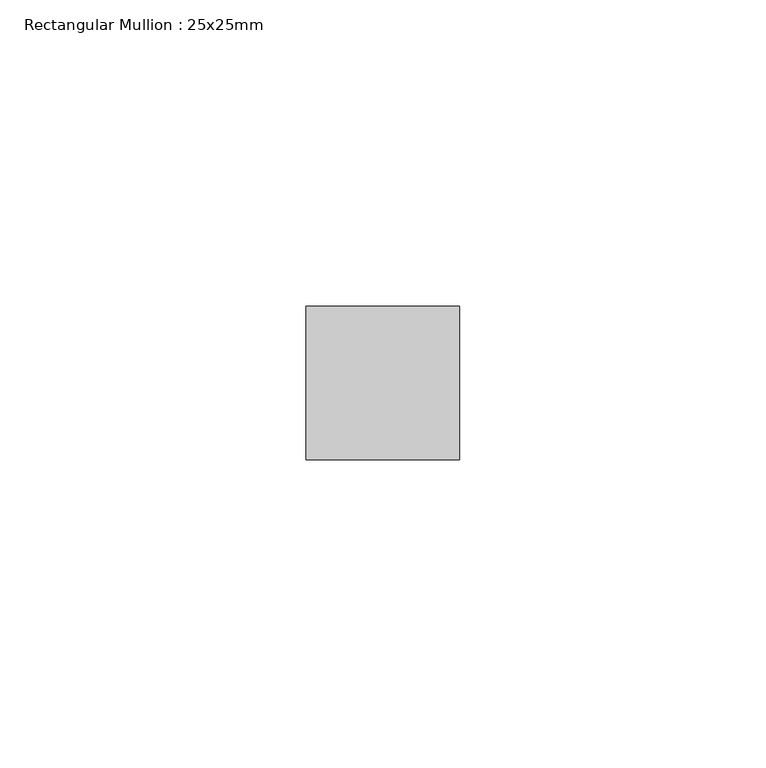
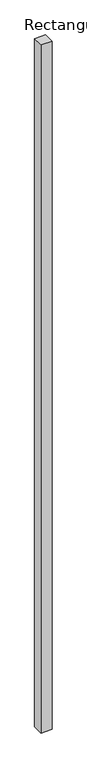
"""IFC4 building model written with IfcOpenShell, lengths in millimetres: member geometry, Rectangular Mullion : 25x25mm."""

import ifcopenshell
import ifcopenshell.guid

model = None  # the IFC model being written
_history = None  # IfcOwnerHistory: only IFC2X3 demands one
_inside = {}  # id of a spatial element -> (the spatial element, [elements in it])
_under = {}  # id of a project, library or spatial element -> (it, [spatial elements below it])
_declared = {}  # id of a project -> (the project, [libraries it declares])
_typed = {}  # id of a type object -> (the type object, [elements of that type])
_made_of = {}  # id of a material, layer set ... -> (it, [elements and type objects made of it])


def new_model(schema):
    """Start an empty IFC model of exactly this schema.

    Asked for "IFC4X3", IfcOpenShell would pick the latest addendum, in which some entities
    have other attributes; the version numbers below select the first issue.
    IFC2X3 requires an IfcOwnerHistory on every rooted entity: one is made here for all.
    """
    global model, _history
    if schema == "IFC4X3":
        model = ifcopenshell.file(schema_version=(4, 3, 0, 0))
    else:
        model = ifcopenshell.file(schema=schema)
    _inside.clear()
    _under.clear()
    _declared.clear()
    _typed.clear()
    _made_of.clear()
    _history = None
    if model.schema == "IFC2X3":
        org = make("IfcOrganization", Name="unknown")
        user = make(
            "IfcPersonAndOrganization",
            ThePerson=make("IfcPerson", FamilyName="unknown"),
            TheOrganization=org,
        )
        app = make(
            "IfcApplication",
            ApplicationDeveloper=org,
            Version="unknown",
            ApplicationFullName="unknown",
            ApplicationIdentifier="unknown",
        )
        _history = make(
            "IfcOwnerHistory",
            OwningUser=user,
            OwningApplication=app,
            ChangeAction="ADDED",
            CreationDate=0,
        )
    return model


def make(cls, **values):
    """One entity of the class cls with the attributes given. An attribute that is None is left unset."""
    return model.create_entity(
        cls, **{name: value for name, value in values.items() if value is not None}
    )


def rooted(cls, **values):
    """An entity with a GlobalId (a new one), such as an element, a storey or a relation."""
    return make(cls, GlobalId=ifcopenshell.guid.new(), OwnerHistory=_history, **values)


def si_unit(unit_type, name, prefix=None):
    """IfcSIUnit, for example si_unit("LENGTHUNIT", "METRE", prefix="MILLI")."""
    return make("IfcSIUnit", UnitType=unit_type, Prefix=prefix, Name=name)


def assignment(units):
    """IfcUnitAssignment: the units of a project."""
    return None if units is None else make("IfcUnitAssignment", Units=units)


def point(xyz):
    """IfcCartesianPoint."""
    return None if xyz is None else make("IfcCartesianPoint", Coordinates=xyz)


def direction(xyz):
    """IfcDirection."""
    return None if xyz is None else make("IfcDirection", DirectionRatios=xyz)


def frame(location, z_axis=None, x_axis=None):
    """IfcAxis2Placement3D, a coordinate frame: its origin and axes. An axis left out is left unset."""
    return make(
        "IfcAxis2Placement3D",
        Location=point(location),
        Axis=direction(z_axis),
        RefDirection=direction(x_axis),
    )


def origin():
    """The frame at (0, 0, 0) with its axes left unset."""
    return frame((0.0, 0.0, 0.0))


def place(relative_to, where):
    """IfcLocalPlacement: puts the frame where relative to a parent placement (None: the world)."""
    return make(
        "IfcLocalPlacement", PlacementRelTo=relative_to, RelativePlacement=where
    )


def context(
    kind, dimensions, precision=None, world=None, true_north=None, identifier=None
):
    """IfcGeometricRepresentationContext, for example the 3D "Model" context."""
    return make(
        "IfcGeometricRepresentationContext",
        ContextIdentifier=identifier,
        ContextType=kind,
        CoordinateSpaceDimension=dimensions,
        Precision=precision,
        WorldCoordinateSystem=world,
        TrueNorth=true_north,
    )


def project(units=None, contexts=None):
    """IfcProject with its units and contexts."""
    return rooted(
        "IfcProject",
        Name="project",
        RepresentationContexts=contexts,
        UnitsInContext=assignment(units),
    )


def spatial(cls, under=None, at=None, **own):
    """A site, building, storey or space (cls), placed at a placement, below another one or the project."""
    s = rooted(cls, ObjectPlacement=at, **own)
    if under is not None:
        _under.setdefault(under.id(), (under, []))[1].append(s)
    return s


def polyline(points):
    """IfcPolyline through the points."""
    return make("IfcPolyline", Points=[point(p) for p in points])


def outline(outer, holes=None, kind="AREA"):
    """IfcArbitraryClosedProfileDef: a profile drawn as a closed curve; with holes, ...WithVoids."""
    if holes is None:
        return make("IfcArbitraryClosedProfileDef", ProfileType=kind, OuterCurve=outer)
    return make(
        "IfcArbitraryProfileDefWithVoids",
        ProfileType=kind,
        OuterCurve=outer,
        InnerCurves=holes,
    )


def extrude(swept, where, along, depth):
    """IfcExtrudedAreaSolid: the profile swept, set in the frame where, extruded along a direction by depth."""
    return make(
        "IfcExtrudedAreaSolid",
        SweptArea=swept,
        Position=where,
        ExtrudedDirection=direction(along),
        Depth=depth,
    )


def shape(context_of_items, identifier, shape_type, items):
    """IfcShapeRepresentation: the items that make up one representation, for example the "Body"."""
    return make(
        "IfcShapeRepresentation",
        ContextOfItems=context_of_items,
        RepresentationIdentifier=identifier,
        RepresentationType=shape_type,
        Items=items,
    )


def source(mapping_origin, context_of_items, identifier, shape_type, items):
    """IfcRepresentationMap: a shape defined once, which mapped items show again and again."""
    return make(
        "IfcRepresentationMap",
        MappingOrigin=mapping_origin,
        MappedRepresentation=shape(context_of_items, identifier, shape_type, items),
    )


def transform(
    local_origin,
    x_axis=None,
    y_axis=None,
    z_axis=None,
    scale=None,
    scale2=None,
    scale3=None,
    uniform=True,
):
    """IfcCartesianTransformationOperator3D, or its non-uniform kind. x_axis, y_axis, z_axis: its Axis1, 2, 3."""
    if uniform:
        return make(
            "IfcCartesianTransformationOperator3D",
            Axis1=direction(x_axis),
            Axis2=direction(y_axis),
            LocalOrigin=point(local_origin),
            Scale=scale,
            Axis3=direction(z_axis),
        )
    return make(
        "IfcCartesianTransformationOperator3DnonUniform",
        Axis1=direction(x_axis),
        Axis2=direction(y_axis),
        LocalOrigin=point(local_origin),
        Scale=scale,
        Axis3=direction(z_axis),
        Scale2=scale2,
        Scale3=scale3,
    )


def mapped(mapping_source, mapping_target):
    """IfcMappedItem: shows the shape of a source again, moved by a transform."""
    return make(
        "IfcMappedItem", MappingSource=mapping_source, MappingTarget=mapping_target
    )


def made_of(thing, what):
    """Note that an element or type object is made of a material, layer set ...; save() writes the relation."""
    if what is not None:
        _made_of.setdefault(what.id(), (what, []))[1].append(thing)
    return thing


def element(
    cls,
    number,
    at=None,
    inside=None,
    cuts=None,
    type_object=None,
    material=None,
    context=None,
    identifier="Body",
    shape_type=None,
    held_by="IfcProductDefinitionShape",
    body=None,
    shapes=None,
    **own,
):
    """One element of the class cls, such as IfcWall. Its Tag is "e" and its number.

    at: its placement. inside: the storey or other place that contains it. cuts: it is an
    opening in that element (IfcRelVoidsElement). A single representation is given by context,
    identifier, shape_type and body (its items); several are given by shapes. held_by: the class
    of the entity that holds the representations. save() writes the other relations.
    """
    e = rooted(cls, Tag="e%d" % number, ObjectPlacement=at, **own)
    if body is not None:
        shapes = [shape(context, identifier, shape_type, body)]
    if shapes is not None:
        e.Representation = make(held_by, Representations=shapes)
    if inside is not None:
        _inside.setdefault(inside.id(), (inside, []))[1].append(e)
    if cuts is not None:
        rooted(
            "IfcRelVoidsElement", RelatingBuildingElement=cuts, RelatedOpeningElement=e
        )
    if type_object is not None:
        _typed.setdefault(type_object.id(), (type_object, []))[1].append(e)
    return made_of(e, material)


def aggregate(whole, parts):
    """IfcRelAggregates: a whole, such as a stair, and the parts it consists of."""
    return rooted("IfcRelAggregates", RelatingObject=whole, RelatedObjects=parts)


def save(model, path):
    """Write the relations noted so far, then the file.

    IfcRelAggregates (storeys below a building ...), IfcRelContainedInSpatialStructure (elements
    in a storey), IfcRelDefinesByType, IfcRelAssociatesMaterial and IfcRelDeclares: one each for
    every whole, place, type object, material and project.
    """
    for whole, parts in _under.values():
        aggregate(whole, parts)
    for where, things in _inside.values():
        rooted(
            "IfcRelContainedInSpatialStructure",
            RelatedElements=things,
            RelatingStructure=where,
        )
    for kind, things in _typed.values():
        rooted("IfcRelDefinesByType", RelatedObjects=things, RelatingType=kind)
    for what, things in _made_of.values():
        rooted("IfcRelAssociatesMaterial", RelatedObjects=things, RelatingMaterial=what)
    for by, libraries in _declared.values():
        rooted("IfcRelDeclares", RelatingContext=by, RelatedDefinitions=libraries)
    model.write(path)


def rectangular_mullion_25x25mm_ac1da17a(model_context):
    return source(origin(), model_context, "Body", "SweptSolid", [
        extrude(outline(polyline([(12.5, 24.5), (12.5, -0.5), (-12.5, -0.5), (-12.5, 24.5), (12.5, 24.5)])), frame((0.0, 0.0, -1670.0), z_axis=(0.0, 0.0, 1.0), x_axis=(1.0, 0.0, 0.0)), (0.0, 0.0, 1.0), 1670.0),
    ])


if __name__ == "__main__":
    model = new_model("IFC4")
    model_context = context("Model", 3, world=origin())
    ifc_project = project(units=[si_unit("LENGTHUNIT", "METRE", prefix="MILLI")], contexts=[model_context])
    site = spatial("IfcSite", under=ifc_project)
    building = spatial("IfcBuilding", under=site)
    placement = place(None, origin())
    rectangular_mullion_25x25mm_shape = rectangular_mullion_25x25mm_ac1da17a(model_context)
    element("IfcMember", 1, ObjectType="Rectangular Mullion : 25x25mm", at=placement, inside=building, context=model_context, shape_type="MappedRepresentation", body=[
        mapped(rectangular_mullion_25x25mm_shape, transform((0.0, 0.0, 0.0), x_axis=(1.0, 0.0, 0.0), y_axis=(0.0, 1.0, 0.0), z_axis=(0.0, 0.0, 1.0))),
    ])
    save(model, "model.ifc")
